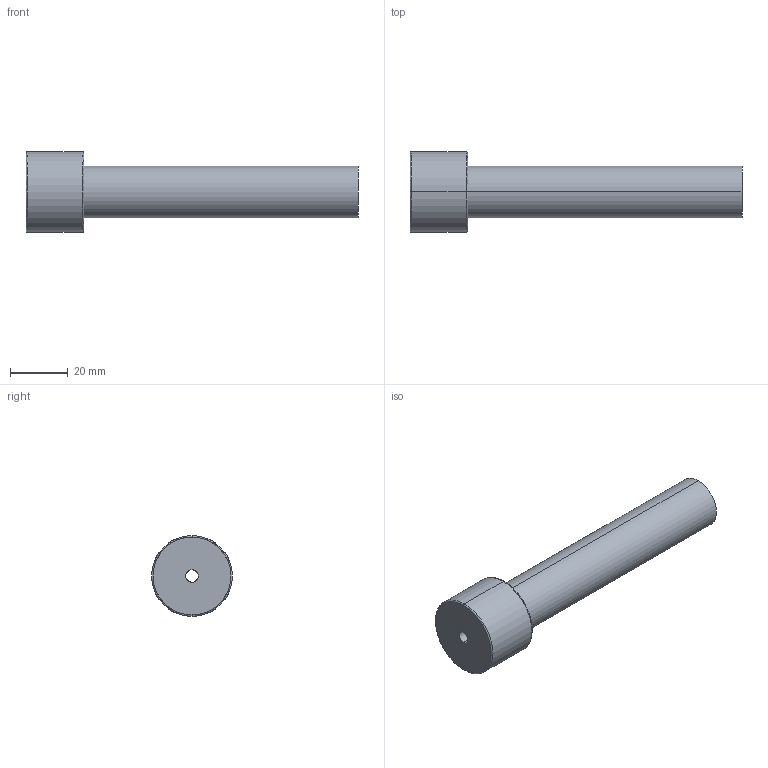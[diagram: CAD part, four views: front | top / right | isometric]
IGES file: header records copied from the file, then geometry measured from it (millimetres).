
Start section: START RECORD GO HERE.
Global section: file name: 367F-18X115.igs; native system: DASSAULT SYSTEMES CATIA V5 R20 - www.3ds.com; preprocessor: CATIA Version 5 Release 20 ; author: Utente; organization: NB04-ASUS; date: 20210324.170047; units: millimetre
Bounding box: 115 x 28 x 28 mm (x, y, z)
Surface area: 10869.1 mm2 (no closed solid volume)
Topology: 0 solids, 0 shells, 13 faces, 84 edges, 84 vertices
Faces by surface type: revolution 10, plane 3
